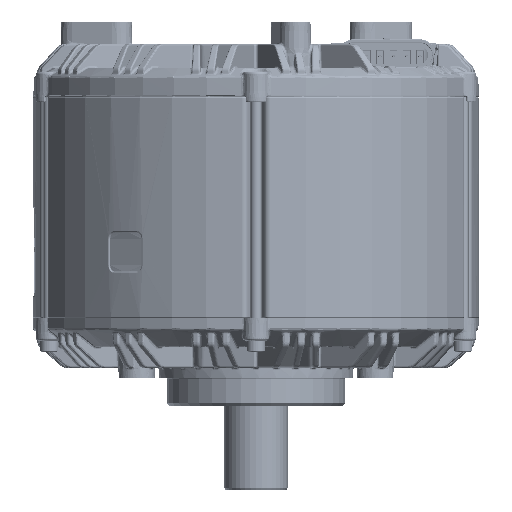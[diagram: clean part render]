
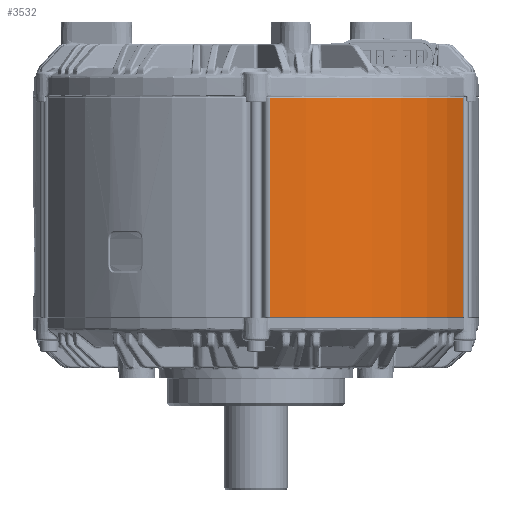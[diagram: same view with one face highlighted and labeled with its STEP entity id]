
A CAD part, front view. The second image highlights one B-rep face of the part: STEP entity #3532.
In plain terms, the highlighted cylindrical face has radius 100.5 mm (diameter 201 mm), a partial arc.
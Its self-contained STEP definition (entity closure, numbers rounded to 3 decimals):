
#3532 = ADVANCED_FACE ( 'NONE', ( #220057 ), #54607, .T. ) ;
#31035 = AXIS2_PLACEMENT_3D ( 'NONE', #425675, #430876, #388806 ) ;
#32476 = CARTESIAN_POINT ( 'NONE',  ( -6.485, -100.291, 49.1 ) ) ;
#52898 = AXIS2_PLACEMENT_3D ( 'NONE', #380388, #341025, #214927 ) ;
#54607 = CYLINDRICAL_SURFACE ( 'NONE', #52898, 100.5 ) ;
#57195 = CIRCLE ( 'NONE', #468413, 100.5 ) ;
#57730 = VECTOR ( 'NONE', #260844, 1000. ) ;
#58477 = LINE ( 'NONE', #218776, #57730 ) ;
#59883 = VECTOR ( 'NONE', #344950, 1000. ) ;
#74056 = DIRECTION ( 'NONE',  ( 0., 0., 1. ) ) ;
#103897 = VERTEX_POINT ( 'NONE', #317384 ) ;
#109297 = ORIENTED_EDGE ( 'NONE', *, *, #172889, .T. ) ;
#115937 = ORIENTED_EDGE ( 'NONE', *, *, #207945, .T. ) ;
#152958 = DIRECTION ( 'NONE',  ( 1., 0., 0. ) ) ;
#156736 = CIRCLE ( 'NONE', #31035, 100.5 ) ;
#157241 = EDGE_LOOP ( 'NONE', ( #109297, #115937, #214626, #178515 ) ) ;
#172889 = EDGE_CURVE ( 'NONE', #287434, #103897, #58477, .T. ) ;
#178515 = ORIENTED_EDGE ( 'NONE', *, *, #451696, .T. ) ;
#178653 = EDGE_CURVE ( 'NONE', #190947, #443331, #389541, .T. ) ;
#190947 = VERTEX_POINT ( 'NONE', #428425 ) ;
#207945 = EDGE_CURVE ( 'NONE', #103897, #190947, #57195, .T. ) ;
#214626 = ORIENTED_EDGE ( 'NONE', *, *, #178653, .T. ) ;
#214927 = DIRECTION ( 'NONE',  ( 1., 0., 0. ) ) ;
#218776 = CARTESIAN_POINT ( 'NONE',  ( -93.378, -37.159, -57.58 ) ) ;
#220057 = FACE_OUTER_BOUND ( 'NONE', #157241, .T. ) ;
#260844 = DIRECTION ( 'NONE',  ( 0., 0., -1. ) ) ;
#279043 = CARTESIAN_POINT ( 'NONE',  ( 0., 0., -49.3 ) ) ;
#287434 = VERTEX_POINT ( 'NONE', #467554 ) ;
#317384 = CARTESIAN_POINT ( 'NONE',  ( -93.378, -37.159, -49.3 ) ) ;
#341025 = DIRECTION ( 'NONE',  ( 0., 0., 1. ) ) ;
#344950 = DIRECTION ( 'NONE',  ( 0., 0., 1. ) ) ;
#380388 = CARTESIAN_POINT ( 'NONE',  ( 0., 0., -57.58 ) ) ;
#388806 = DIRECTION ( 'NONE',  ( -1., 0., 0. ) ) ;
#389541 = LINE ( 'NONE', #451023, #59883 ) ;
#425675 = CARTESIAN_POINT ( 'NONE',  ( 0., 0., 49.1 ) ) ;
#428425 = CARTESIAN_POINT ( 'NONE',  ( -6.485, -100.291, -49.3 ) ) ;
#430876 = DIRECTION ( 'NONE',  ( 0., 0., -1. ) ) ;
#443331 = VERTEX_POINT ( 'NONE', #32476 ) ;
#451023 = CARTESIAN_POINT ( 'NONE',  ( -6.485, -100.291, -57.58 ) ) ;
#451696 = EDGE_CURVE ( 'NONE', #443331, #287434, #156736, .T. ) ;
#467554 = CARTESIAN_POINT ( 'NONE',  ( -93.378, -37.159, 49.1 ) ) ;
#468413 = AXIS2_PLACEMENT_3D ( 'NONE', #279043, #74056, #152958 ) ;
